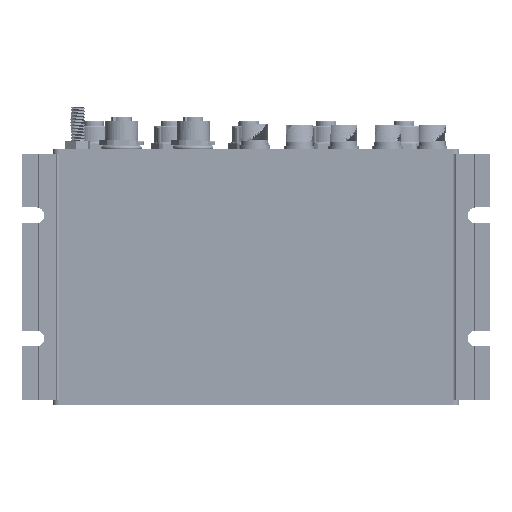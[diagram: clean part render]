
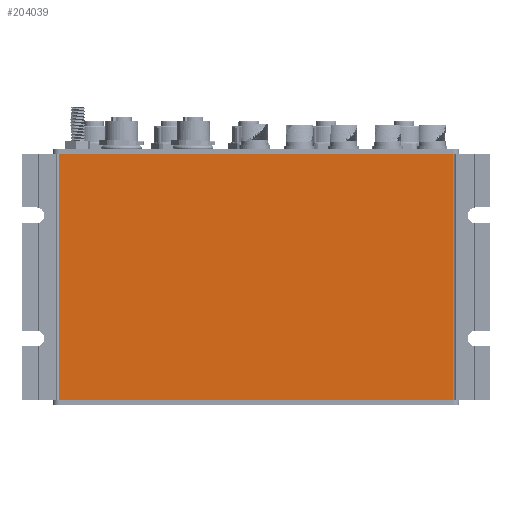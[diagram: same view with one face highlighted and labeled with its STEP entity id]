
A CAD part, front view. The second image highlights one B-rep face of the part: STEP entity #204039.
In plain terms, the highlighted planar face has unit normal (0, -1, 0).
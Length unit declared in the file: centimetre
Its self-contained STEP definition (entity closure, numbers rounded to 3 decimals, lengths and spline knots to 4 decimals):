
#13617=VERTEX_POINT('',#281028);
#13618=VERTEX_POINT('',#281030);
#13619=VERTEX_POINT('',#281034);
#13620=VERTEX_POINT('',#281036);
#34221=VECTOR('',#231024,1.);
#34222=VECTOR('',#231028,1.);
#34223=VECTOR('',#231029,1.);
#34224=VECTOR('',#231030,1.);
#60253=LINE('',#281029,#34221);
#60254=LINE('',#281033,#34222);
#60255=LINE('',#281035,#34223);
#60256=LINE('',#281037,#34224);
#86376=EDGE_CURVE('',#13618,#13617,#60253,.T.);
#86378=EDGE_CURVE('',#13617,#13619,#60254,.T.);
#86379=EDGE_CURVE('',#13620,#13619,#60255,.T.);
#86380=EDGE_CURVE('',#13618,#13620,#60256,.T.);
#117901=ORIENTED_EDGE('',*,*,#86378,.T.);
#117902=ORIENTED_EDGE('',*,*,#86379,.F.);
#117903=ORIENTED_EDGE('',*,*,#86380,.F.);
#117904=ORIENTED_EDGE('',*,*,#86376,.T.);
#180451=EDGE_LOOP('',(#117901,#117902,#117903,#117904));
#192245=FACE_BOUND('',#180451,.T.);
#204039=ADVANCED_FACE('',(#192245),#369879,.T.);
#214858=AXIS2_PLACEMENT_3D('',#281032,#231027,$);
#231024=DIRECTION('',(0.,0.,1.));
#231027=DIRECTION('',(0.,-1.,0.));
#231028=DIRECTION('',(-1.,0.,0.));
#231029=DIRECTION('',(0.,0.,1.));
#231030=DIRECTION('',(-1.,0.,0.));
#281028=CARTESIAN_POINT('',(17.5,0.1,10.));
#281029=CARTESIAN_POINT('',(17.5,0.1,0.));
#281030=CARTESIAN_POINT('',(17.5,0.1,0.));
#281032=CARTESIAN_POINT('',(9.5,0.1,0.));
#281033=CARTESIAN_POINT('',(17.5,0.1,10.));
#281034=CARTESIAN_POINT('',(1.5,0.1,10.));
#281035=CARTESIAN_POINT('',(1.5,0.1,0.));
#281036=CARTESIAN_POINT('',(1.5,0.1,0.));
#281037=CARTESIAN_POINT('',(17.5,0.1,0.));
#369879=PLANE('',#214858);
